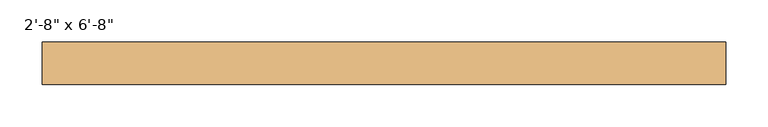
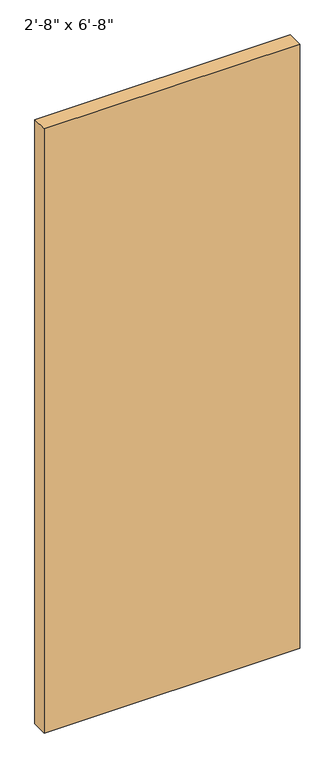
"""IFC4 building model written with IfcOpenShell, lengths in millimetres: door geometry."""

from ifc_helpers import new_model, si_unit, origin, origin_with_axes, place, context, project, spatial, polyline, outline, extrude, source, transform, mapped, element, save


def door_8554c7b2(model_context):
    return source(origin(), model_context, "Body", "SweptSolid", [
        extrude(outline(polyline([(406.4, -31.55), (406.4, -82.55), (-406.4, -82.55), (-406.4, -31.55), (406.4, -31.55)])), origin_with_axes(), (0.0, 0.0, 1.0), 2032.0),
    ])


if __name__ == "__main__":
    model = new_model("IFC4")
    model_context = context("Model", 3, world=origin())
    ifc_project = project(units=[si_unit("LENGTHUNIT", "METRE", prefix="MILLI")], contexts=[model_context])
    site = spatial("IfcSite", under=ifc_project)
    building = spatial("IfcBuilding", under=site)
    placement = place(None, origin())
    door_shape = door_8554c7b2(model_context)
    element("IfcDoor", 1, ObjectType="Planitar - Single Door_Flush Panel : 2'-8\" x 6'-8\"", at=placement, inside=building, context=model_context, shape_type="MappedRepresentation", body=[
        mapped(door_shape, transform((0.0, 0.0, 0.0), x_axis=(1.0, 0.0, 0.0), y_axis=(0.0, 1.0, 0.0), z_axis=(0.0, 0.0, 1.0))),
    ])
    save(model, "model.ifc")
